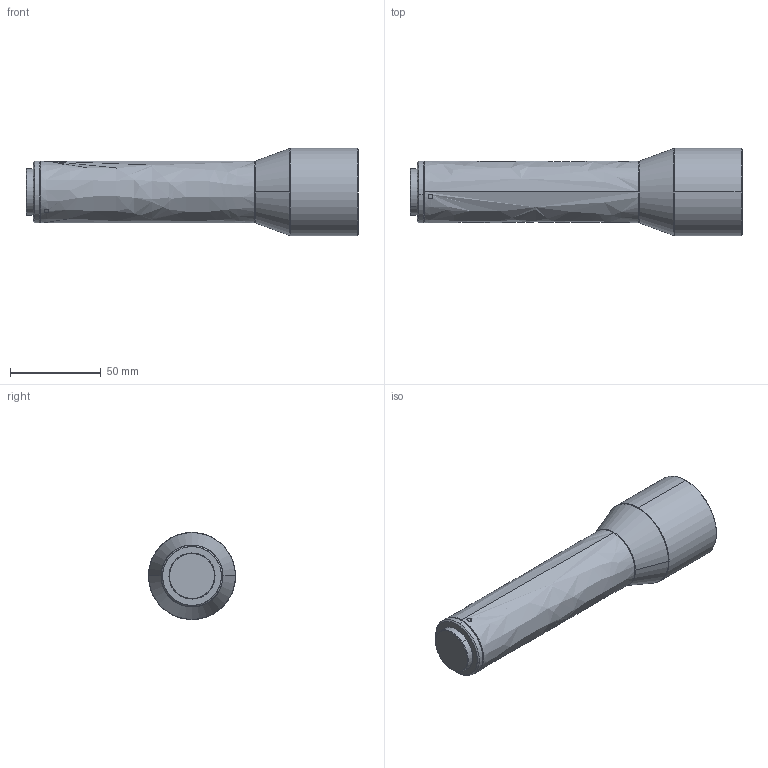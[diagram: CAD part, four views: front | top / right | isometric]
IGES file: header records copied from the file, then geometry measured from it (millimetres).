
Start section: SolidWorks IGES file using analytic representation for surfaces
Global section: file name: I:\--  --  ²úÆ· 2022.1.26\WWK\WD180\WWK10-180C-111\3D\WWK10-180-111.IGS; native system: SolidWorks 2017; preprocessor: SolidWorks 2017; author: luo-PC; date: 220525.110251; units: millimetre
Bounding box: 183 x 48 x 48 mm (x, y, z)
Surface area: 24337.2 mm2 (no closed solid volume)
Topology: 0 solids, 0 shells, 43 faces, 1004 edges, 1004 vertices
Faces by surface type: revolution 33, bspline 10
